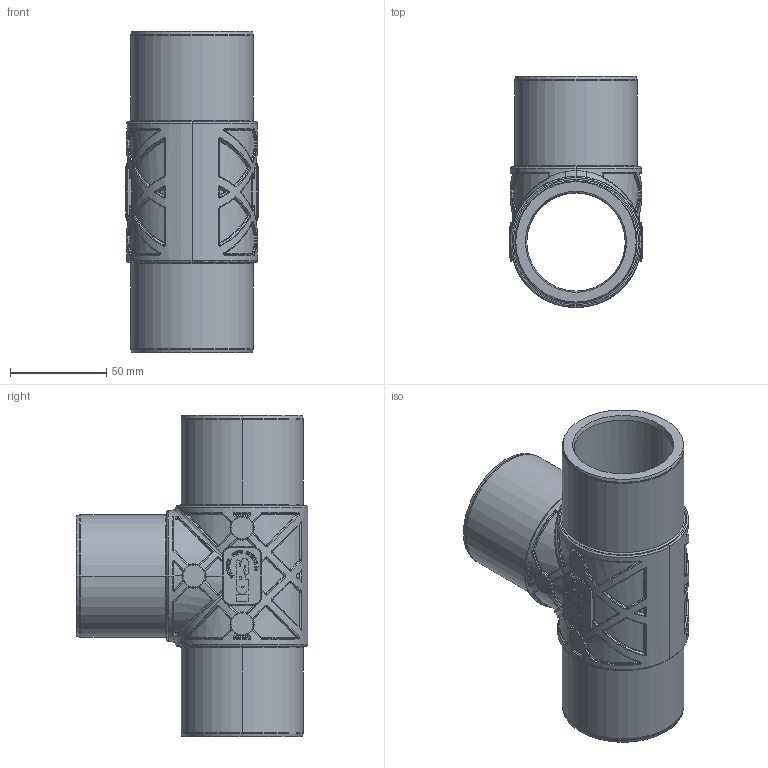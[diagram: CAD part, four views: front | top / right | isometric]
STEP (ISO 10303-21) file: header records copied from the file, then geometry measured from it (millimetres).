
FILE_DESCRIPTION (( 'STEP AP214' ), '1' );
FILE_NAME ('KP_8-63EC.STEP', '2012-12-14T10:20:42', ( '' ), ( '' ), 'SwSTEP 2.0', 'SolidWorks 2012', '' );
FILE_SCHEMA (( 'AUTOMOTIVE_DESIGN' ));
Length unit declared in the file: millimetre
Products named in the file (1): KP_8-63EC
Bounding box: 69 x 120 x 167 mm (x, y, z)
Volume: 265447.4 mm3; surface area: 83647 mm2
Topology: 1 solids, 1 shells, 1741 faces, 4200 edges, 2444 vertices
Faces by surface type: bspline 566, plane 483, cylinder 326, sphere 232, torus 116, cone 18
Entity records: 60573 total; most frequent: CARTESIAN_POINT 24909, ORIENTED_EDGE 8144, DIRECTION 6612, EDGE_CURVE 4072, AXIS2_PLACEMENT_3D 2603, VERTEX_POINT 2394, EDGE_LOOP 1806, FACE_OUTER_BOUND 1741
